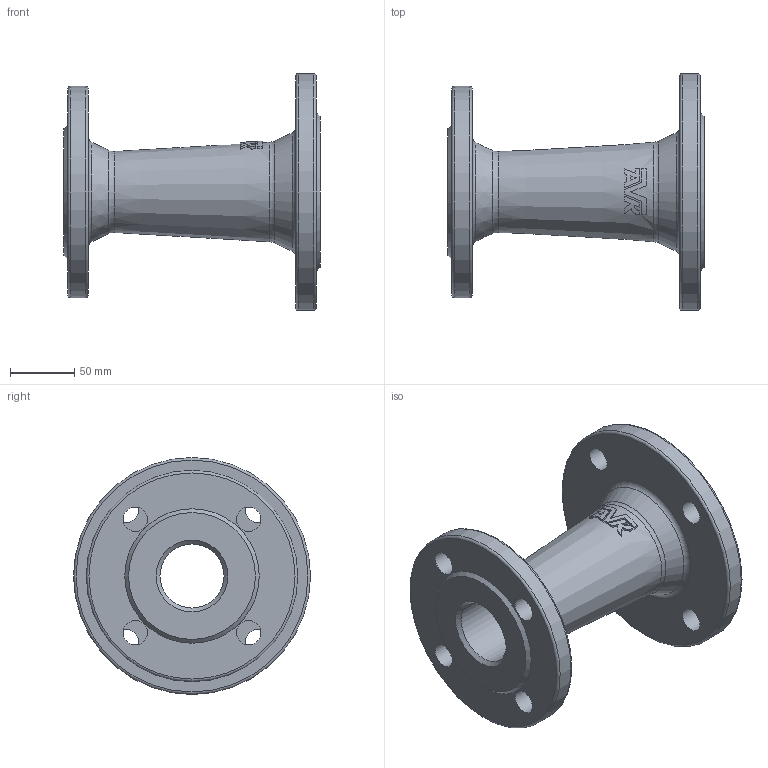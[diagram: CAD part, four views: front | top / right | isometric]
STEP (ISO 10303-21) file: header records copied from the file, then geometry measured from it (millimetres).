
FILE_DESCRIPTION (( 'STEP AP203' ), '1' );
FILE_NAME ('O_712_2210_DN65_DN50_1X_REV01.step', '2024-08-07T10:50:14', ( '' ), ( '' ), 'SwSTEP 2.0', 'SolidWorks 2022', '' );
FILE_SCHEMA (( 'CONFIG_CONTROL_DESIGN' ));
Length unit declared in the file: millimetre
Products named in the file (1): O_712_2210_DN65_DN50_1X_REV01
Bounding box: 200 x 185 x 185 mm (x, y, z)
Volume: 941906.9 mm3; surface area: 172195.7 mm2
Topology: 1 solids, 1 shells, 77 faces, 196 edges, 129 vertices
Faces by surface type: plane 41, cylinder 14, cone 12, torus 10
Full cylindrical faces by diameter (mm): 19 x8, 50 x1, 65 x1, 165 x1, 185 x1
Entity records: 2266 total; most frequent: CARTESIAN_POINT 521, DIRECTION 345, ORIENTED_EDGE 310, EDGE_CURVE 155, AXIS2_PLACEMENT_3D 154, EDGE_LOOP 133, VERTEX_POINT 118, FACE_OUTER_BOUND 99
